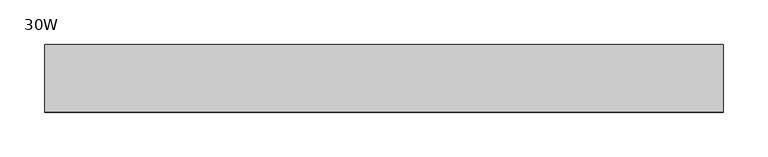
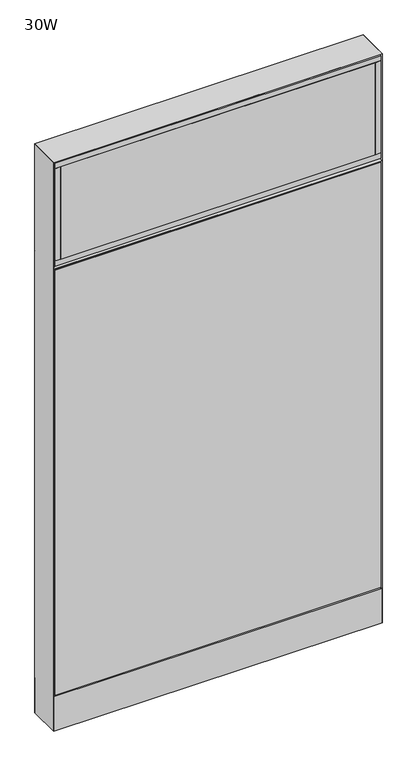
"""IFC4 building model written with IfcOpenShell, lengths in millimetres: furniture geometry, Steelcase - Montage - Frame - 55H - Enhanced Standard - Base Cavity : 30W."""

from ifc_helpers import new_model, si_unit, point, frame, frame_2d, origin, origin_with_axes, place, context, project, spatial, polyline, circle_curve, trimmed, segment, composite_curve, outline, extrude, faceted_brep, source, transform, mapped, element, save


def furniture_30w_335733bd(model_context):
    return source(origin(), model_context, "Body", "SolidModel", [
        faceted_brep([(-5.4e-06, 38.102627, 1136.6500027), (6.3499917, 31.7526299, 1142.9999997), (755.6500047, 31.7526299, 1142.9999997), (762.0, 38.1026253, 1136.6500044), (755.6500047, 31.7526299, 1130.3000003), (6.3499917, 31.7526299, 1130.3000003)], [[[0, 1, 2, 3]], [[3, 4, 5, 0]], [[1, 5, 4, 2]], [[0, 5, 1]], [[2, 4, 3]]]),
        extrude(outline(polyline([(746.125, 38.1000015), (746.125, 31.7500017), (15.875, 31.7500017), (15.875, 38.1000015), (746.125, 38.1000015)])), frame((0.0, 0.0, 1156.49375), z_axis=(0.0, 0.0, 1.0), x_axis=(1.0, 0.0, 0.0)), (0.0, 0.0, 1.0), 226.21875),
        extrude(outline(polyline([(746.125, -31.7499985), (746.125, -38.1000015), (15.875, -38.1000015), (15.875, -31.7499985), (746.125, -31.7499985)])), frame((0.0, 0.0, 1156.49375), z_axis=(0.0, 0.0, 1.0), x_axis=(1.0, 0.0, 0.0)), (0.0, 0.0, 1.0), 226.21875),
        extrude(outline(polyline([(758.825, -38.1000015), (746.125, -38.1000015), (746.125, 38.1000015), (758.825, 38.1000015), (758.825, -38.1000015)])), frame((0.0, 0.0, 1156.49375), z_axis=(0.0, 0.0, 1.0), x_axis=(1.0, 0.0, 0.0)), (0.0, 0.0, 1.0), 226.21875),
        extrude(outline(polyline([(15.875, -38.1000015), (3.175, -38.1000015), (3.175, 38.1000015), (15.875, 38.1000015), (15.875, -38.1000015)])), frame((0.0, 0.0, 1156.49375), z_axis=(0.0, 0.0, 1.0), x_axis=(1.0, 0.0, 0.0)), (0.0, 0.0, 1.0), 226.21875),
        extrude(outline(polyline([(758.825, -38.1000015), (3.175, -38.1000015), (3.175, 38.1000015), (758.825, 38.1000015), (758.825, -38.1000015)])), frame((0.0, 0.0, 1143.79375), z_axis=(0.0, 0.0, 1.0), x_axis=(1.0, 0.0, 0.0)), (0.0, 0.0, 1.0), 12.7),
        extrude(outline(polyline([(758.825, -38.1000015), (3.175, -38.1000015), (3.175, 38.1000015), (758.825, 38.1000015), (758.825, -38.1000015)])), frame((0.0, 0.0, 1382.7125), z_axis=(0.0, 0.0, 1.0), x_axis=(1.0, 0.0, 0.0)), (0.0, 0.0, 1.0), 12.7),
        extrude(outline(polyline([(3.175, 31.7500194), (3.175, 38.1000194), (758.825, 38.1000194), (758.825, 31.7500194), (3.175, 31.7500194)])), frame((0.0, 0.0, 92.075), z_axis=(0.0, 0.0, 1.0), x_axis=(1.0, 0.0, 0.0)), (0.0, 0.0, 1.0), 1041.4),
        faceted_brep([(0.0, -38.1026297, 1136.65), (762.0, -38.1026297, 1136.65), (755.6500047, -31.7526299, 1142.9999997), (6.3499917, -31.7526299, 1142.9999997), (6.3499917, -31.7526299, 1130.3000003), (755.6500047, -31.7526299, 1130.3000003)], [[[0, 1, 2, 3]], [[1, 0, 4, 5]], [[3, 2, 5, 4]], [[0, 3, 4]], [[2, 1, 5]]]),
        extrude(outline(polyline([(746.125, -38.1000015), (15.875, -38.1000015), (15.875, -31.7500017), (746.125, -31.7500017), (746.125, -38.1000015)])), frame((0.0, 0.0, 1156.49375), z_axis=(0.0, 0.0, 1.0), x_axis=(1.0, 0.0, 0.0)), (0.0, 0.0, 1.0), 226.21875),
        extrude(outline(polyline([(746.125, 31.7499985), (15.875, 31.7499985), (15.875, 38.1000015), (746.125, 38.1000015), (746.125, 31.7499985)])), frame((0.0, 0.0, 1156.49375), z_axis=(0.0, 0.0, 1.0), x_axis=(1.0, 0.0, 0.0)), (0.0, 0.0, 1.0), 226.21875),
        extrude(outline(polyline([(758.825, 38.1000015), (758.825, -38.1000015), (746.125, -38.1000015), (746.125, 38.1000015), (758.825, 38.1000015)])), frame((0.0, 0.0, 1156.49375), z_axis=(0.0, 0.0, 1.0), x_axis=(1.0, 0.0, 0.0)), (0.0, 0.0, 1.0), 226.21875),
        extrude(outline(polyline([(15.875, 38.1000015), (15.875, -38.1000015), (3.175, -38.1000015), (3.175, 38.1000015), (15.875, 38.1000015)])), frame((0.0, 0.0, 1156.49375), z_axis=(0.0, 0.0, 1.0), x_axis=(1.0, 0.0, 0.0)), (0.0, 0.0, 1.0), 226.21875),
        extrude(outline(polyline([(758.825, 38.1000015), (758.825, -38.1000015), (3.175, -38.1000015), (3.175, 38.1000015), (758.825, 38.1000015)])), frame((0.0, 0.0, 1143.79375), z_axis=(0.0, 0.0, 1.0), x_axis=(1.0, 0.0, 0.0)), (0.0, 0.0, 1.0), 12.7),
        extrude(outline(polyline([(758.825, 38.1000015), (758.825, -38.1000015), (3.175, -38.1000015), (3.175, 38.1000015), (758.825, 38.1000015)])), frame((0.0, 0.0, 1382.7125), z_axis=(0.0, 0.0, 1.0), x_axis=(1.0, 0.0, 0.0)), (0.0, 0.0, 1.0), 12.7),
        extrude(outline(polyline([(3.175, -31.7500194), (758.825, -31.7500194), (758.825, -38.1000194), (3.175, -38.1000194), (3.175, -31.7500194)])), frame((0.0, 0.0, 92.075), z_axis=(0.0, 0.0, 1.0), x_axis=(1.0, 0.0, 0.0)), (0.0, 0.0, 1.0), 1041.4),
        extrude(outline(polyline([(6.350003, -31.7499985), (755.649997, -31.7499985), (762.0, -38.1000015), (0.0, -38.1000015), (6.350003, -31.7499985)])), frame((0.0, 0.0, 4.064), z_axis=(0.0, 0.0, 1.0), x_axis=(1.0, 0.0, 0.0)), (0.0, 0.0, 1.0), 84.835997),
        extrude(outline(polyline([(6.3500002, 31.7500017), (0.0, 38.1000015), (762.0, 38.1000015), (755.6500002, 31.7500017), (6.3500002, 31.7500017)])), frame((0.0, 0.0, 4.064), z_axis=(0.0, 0.0, 1.0), x_axis=(1.0, 0.0, 0.0)), (0.0, 0.0, 1.0), 84.835997),
        faceted_brep([(762.0, -38.1000015, 1398.5875), (0.0, -38.1000015, 1398.5875), (6.3500484, -31.749953, 1392.2374516), (755.6499516, -31.749953, 1392.2374516), (6.3500484, 31.749953, 1392.2374516), (755.6499516, 31.749953, 1392.2374516), (0.0, 38.1000015, 1398.5875), (762.0, 38.1000015, 1398.5875)], [[[0, 1, 2, 3]], [[3, 2, 4, 5]], [[6, 7, 5, 4]], [[1, 0, 7, 6]], [[2, 1, 6, 4]], [[0, 3, 5, 7]]]),
        extrude(outline(composite_curve([segment(trimmed(circle_curve(frame_2d((44.45, 0.0)), 15.24), [point((29.21, 0.0))], [point((59.69, 0.0))], False, "CARTESIAN"), True, "CONTINUOUS"), segment(trimmed(circle_curve(frame_2d((44.45, 0.0)), 15.24), [point((59.69, 0.0))], [point((29.21, 0.0))], False, "CARTESIAN"), True, "CONTINUOUS")], self_intersect=False)), origin_with_axes(), (0.0, 0.0, 1.0), 4.064),
        extrude(outline(composite_curve([segment(trimmed(circle_curve(frame_2d((717.55, 0.0)), 15.24), [point((702.31, 0.0))], [point((732.79, 0.0))], False, "CARTESIAN"), True, "CONTINUOUS"), segment(trimmed(circle_curve(frame_2d((717.55, 0.0)), 15.24), [point((732.79, 0.0))], [point((702.31, 0.0))], False, "CARTESIAN"), True, "CONTINUOUS")], self_intersect=False)), origin_with_axes(), (0.0, 0.0, 1.0), 4.064),
        faceted_brep([(762.0, -38.1000106, 4.064), (762.0, 38.1000015, 4.064), (762.0, 38.1000015, 1398.5875), (762.0, -38.1000106, 1398.5874637), (0.0, 38.1000015, 4.064), (0.0, -38.1000015, 4.064), (0.0, -38.1000015, 1398.5875), (0.0, 38.1000015, 1398.5875), (755.6499879, 31.7500017, 606.425), (6.35, 31.7500017, 606.425), (6.3499998, 31.7500017, 619.125), (755.6499879, 31.7500017, 619.125), (6.35, -31.7499985, 619.125), (755.6499879, -31.7499985, 619.125), (6.350003, -31.7499985, 606.425), (755.6499879, -31.7499985, 606.425), (6.35, 31.7500015, 4.064), (6.35, -31.7500015, 4.064), (755.6499879, 31.7499894, 4.064), (755.6499879, -31.7499985, 4.064), (6.35, 31.7500015, 1392.2375), (6.35, -31.7500015, 1392.2375), (755.6499879, -31.7499985, 1392.2374516), (755.6499879, 31.7499895, 1392.2374516)], [[[0, 1, 2, 3]], [[4, 5, 6, 7]], [[8, 9, 10, 11]], [[11, 10, 12, 13]], [[13, 12, 14, 15]], [[9, 8, 15, 14]], [[16, 17, 5, 4]], [[18, 1, 0, 19]], [[16, 4, 7, 20, 10, 9]], [[5, 17, 14, 12, 21, 6]], [[17, 16, 9, 14]], [[12, 10, 20, 21]], [[18, 19, 15, 8]], [[11, 13, 22, 23]], [[19, 0, 3, 22, 13, 15]], [[1, 18, 8, 11, 23, 2]], [[7, 6, 21, 20]], [[3, 2, 23, 22]]]),
    ])


if __name__ == "__main__":
    model = new_model("IFC4")
    model_context = context("Model", 3, world=origin())
    ifc_project = project(units=[si_unit("LENGTHUNIT", "METRE", prefix="MILLI")], contexts=[model_context])
    site = spatial("IfcSite", under=ifc_project)
    building = spatial("IfcBuilding", under=site)
    placement = place(None, origin())
    furniture_30w_shape = furniture_30w_335733bd(model_context)
    element("IfcFurniture", 1, ObjectType="Steelcase - Montage - Frame - 55H - Enhanced Standard - Base Cavity : 30W", at=placement, inside=building, context=model_context, shape_type="MappedRepresentation", body=[
        mapped(furniture_30w_shape, transform((0.0, 0.0, 0.0), x_axis=(1.0, 0.0, 0.0), y_axis=(0.0, 1.0, 0.0), z_axis=(0.0, 0.0, 1.0))),
    ])
    save(model, "model.ifc")
